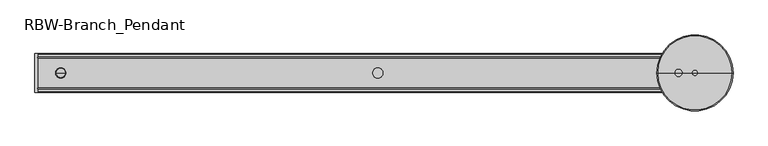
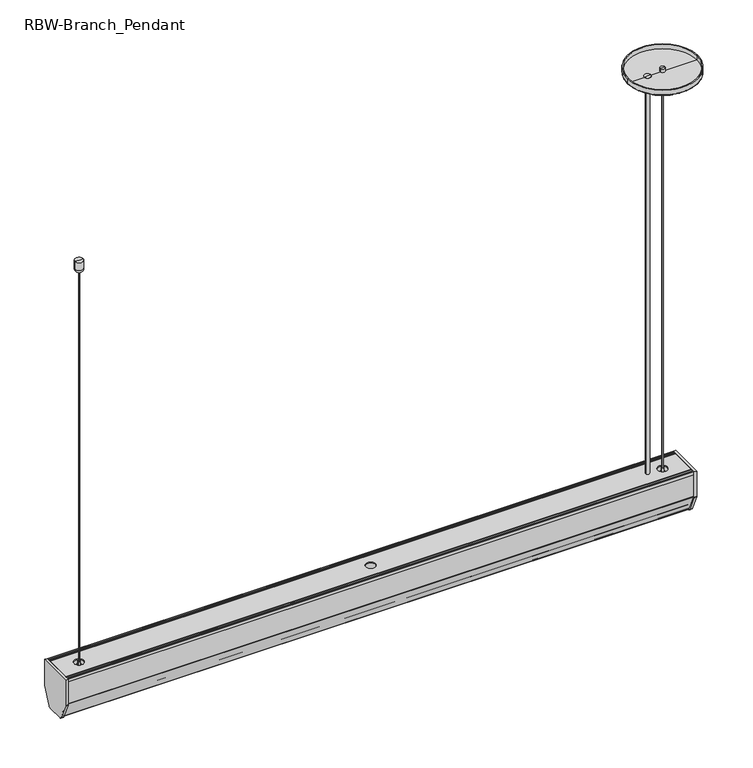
"""IFC4 building model written with IfcOpenShell, lengths in millimetres: light fixture geometry, RBW-Branch_Pendant : BREP-L."""

from ifc_helpers import new_model, si_unit, point, frame, frame_2d, origin, place, context, project, spatial, polyline, circle_curve, ellipse_curve, trimmed, segment, composite_curve, outline, extrude, source, transform, mapped, element, save
from ifc_brep_helpers import plane_surface, cylinder_surface, revolved_surface, advanced_brep


def rbw_branch_pendant_c553a360(model_context):
    return source(origin(), model_context, "Body", "SolidModel", [
        extrude(outline(composite_curve([segment(trimmed(circle_curve(frame_2d((-30.5838757, 1611.1948592)), 2.5551868), [point((-32.9164788, 1610.1518145))], [point((-33.1390625, 1611.1948592))], False, "CARTESIAN"), True, "CONTINUOUS"), segment(polyline([(-33.1390625, 1611.1948592), (-33.1390625, 1660.5718862), (33.1390625, 1660.5718862), (33.1390625, 1611.195204)]), True, "CONTINUOUS"), segment(trimmed(circle_curve(frame_2d((30.6456452, 1611.195204)), 2.4934173), [point((33.1390625, 1611.195204))], [point((32.9299697, 1610.1957085))], False, "CARTESIAN"), True, "CONTINUOUS"), segment(polyline([(32.9299697, 1610.1957085), (19.2424644, 1579.3588342)]), True, "CONTINUOUS"), segment(trimmed(circle_curve(frame_2d((15.5991067, 1581.0038724)), 3.997525), [point((19.2424644, 1579.3588342))], [point((15.5991067, 1577.0063474))], False, "CARTESIAN"), True, "CONTINUOUS"), segment(polyline([(15.5991067, 1577.0063474), (-15.6176874, 1577.0063474)]), True, "CONTINUOUS"), segment(trimmed(circle_curve(frame_2d((-15.6176874, 1580.9750974)), 3.96875), [point((-15.6176874, 1577.0063474))], [point((-19.234817, 1579.3418952))], False, "CARTESIAN"), True, "CONTINUOUS"), segment(polyline([(-19.234817, 1579.3418952), (-32.9164788, 1610.1518145)]), True, "CONTINUOUS")], self_intersect=False)), frame((573.4949219, 0.0, 0.0), z_axis=(1.0, 0.0, 0.0), x_axis=(0.0, 1.0, 0.0)), (0.0, 0.0, 1.0), 5.0),
        extrude(outline(composite_curve([segment(trimmed(circle_curve(frame_2d((-30.5838757, 1611.1948592)), 2.5551868), [point((-32.9164788, 1610.1518145))], [point((-33.1390625, 1611.1948592))], False, "CARTESIAN"), True, "CONTINUOUS"), segment(polyline([(-33.1390625, 1611.1948592), (-33.1390625, 1660.5718862), (33.1390625, 1660.5718862), (33.1390625, 1611.195204)]), True, "CONTINUOUS"), segment(trimmed(circle_curve(frame_2d((30.6456452, 1611.195204)), 2.4934173), [point((33.1390625, 1611.195204))], [point((32.9299697, 1610.1957085))], False, "CARTESIAN"), True, "CONTINUOUS"), segment(polyline([(32.9299697, 1610.1957085), (19.2424644, 1579.3588342)]), True, "CONTINUOUS"), segment(trimmed(circle_curve(frame_2d((15.5991067, 1581.0038724)), 3.997525), [point((19.2424644, 1579.3588342))], [point((15.5991067, 1577.0063474))], False, "CARTESIAN"), True, "CONTINUOUS"), segment(polyline([(15.5991067, 1577.0063474), (-15.6176874, 1577.0063474)]), True, "CONTINUOUS"), segment(trimmed(circle_curve(frame_2d((-15.6176874, 1580.9750974)), 3.96875), [point((-15.6176874, 1577.0063474))], [point((-19.234817, 1579.3418952))], False, "CARTESIAN"), True, "CONTINUOUS"), segment(polyline([(-19.234817, 1579.3418952), (-32.9164788, 1610.1518145)]), True, "CONTINUOUS")], self_intersect=False)), frame((-578.4949219, 0.0, 0.0), z_axis=(1.0, 0.0, 0.0), x_axis=(0.0, 1.0, 0.0)), (0.0, 0.0, 1.0), 5.0),
        advanced_brep(
        [(535.0352427, 0.0, 2428.0587708), (472.0437722, 0.0, 2428.0587708), (598.0267131, 0.0, 2428.0587708), (597.9932185, 0.0, 2429.8682533), (472.0772669, 0.0, 2429.8682533), (535.0352427, 0.0, 2429.8682533), (597.9932185, 0.0, 2438.4), (472.0772669, 0.0, 2438.4), (599.4542757, 0.0, 2438.4), (470.6162096, 0.0, 2438.4), (599.4542757, 0.0, 2429.4863333), (470.6162096, 0.0, 2429.4863333)],
        [
            (0, 1),
            (1, 2, circle_curve(frame((535.0352427, 0.0, 2428.0587708), z_axis=(0.0, 0.0, -1.0), x_axis=(-1.0, 0.0, 0.0)), 62.9914705)),
            (2, 0),
            (2, 1, circle_curve(frame((535.0352427, 0.0, 2428.0587708), z_axis=(0.0, 0.0, -1.0), x_axis=(-1.0, 0.0, 0.0)), 62.9914705)),
            (3, 4, circle_curve(frame((535.0352427, 0.0, 2429.8682533), z_axis=(0.0, 0.0, 1.0), x_axis=(-1.0, 0.0, 0.0)), 62.9579758)),
            (4, 5),
            (5, 3),
            (4, 3, circle_curve(frame((535.0352427, 0.0, 2429.8682533), z_axis=(0.0, 0.0, 1.0), x_axis=(-1.0, 0.0, 0.0)), 62.9579758)),
            (6, 7, circle_curve(frame((535.0352427, 0.0, 2438.4), z_axis=(0.0, 0.0, 1.0), x_axis=(-1.0, 0.0, 0.0)), 62.9579758)),
            (7, 4),
            (3, 6),
            (7, 6, circle_curve(frame((535.0352427, 0.0, 2438.4), z_axis=(0.0, 0.0, 1.0), x_axis=(-1.0, 0.0, 0.0)), 62.9579758)),
            (8, 9, circle_curve(frame((535.0352427, 0.0, 2438.4), z_axis=(0.0, 0.0, 1.0), x_axis=(-1.0, 0.0, 0.0)), 64.4190331)),
            (9, 7),
            (6, 8),
            (9, 8, circle_curve(frame((535.0352427, 0.0, 2438.4), z_axis=(0.0, 0.0, 1.0), x_axis=(-1.0, 0.0, 0.0)), 64.4190331)),
            (10, 11, circle_curve(frame((535.0352427, 0.0, 2429.4863333), z_axis=(0.0, 0.0, 1.0), x_axis=(-1.0, 0.0, 0.0)), 64.4190331)),
            (11, 9),
            (8, 10),
            (11, 10, circle_curve(frame((535.0352427, 0.0, 2429.4863333), z_axis=(0.0, 0.0, 1.0), x_axis=(-1.0, 0.0, 0.0)), 64.4190331)),
            (1, 11, circle_curve(frame((472.0437722, 0.0, 2429.4863333), z_axis=(0.0, 1.0, 0.0), x_axis=(1.0, 0.0, 0.0)), 1.4275626)),
            (10, 2, circle_curve(frame((598.0267131, 0.0, 2429.4863333), z_axis=(0.0, 1.0, 0.0), x_axis=(-1.0, 0.0, 0.0)), 1.4275626)),
        ],
        [
            plane_surface(frame((535.0352427, 0.0, 2428.0587708), z_axis=(0.0, 0.0, -1.0), x_axis=(-1.0, 0.0, 0.0))),
            plane_surface(frame((535.0352427, 0.0, 2429.8682533), z_axis=(0.0, 0.0, 1.0), x_axis=(-1.0, 0.0, 0.0))),
            revolved_surface(polyline([(472.07726690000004, 0.0, 2429.8682533), (472.07726690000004, 0.0, 2438.4)]), (535.0352427, 0.0, 2417.1682533), (0.0, 0.0, -1.0)),
            plane_surface(frame((535.0352427, 0.0, 2438.4), z_axis=(0.0, 0.0, 1.0), x_axis=(-1.0, 0.0, 0.0))),
            cylinder_surface(frame((535.0352427, 0.0, 2417.1682533), z_axis=(0.0, 0.0, -1.0), x_axis=(-1.0, 0.0, 0.0)), 64.4190331),
            revolved_surface(trimmed(ellipse_curve(frame((472.0437722, 0.0, 2429.4863333), z_axis=(0.0, -1.0, 0.0), x_axis=(1.0, 0.0, 0.0)), 1.4275626, 1.4275626), [point((470.6162096, 0.0, 2429.4863333))], [point((472.0437722, 0.0, 2428.0587708))], True, "CARTESIAN"), (535.0352427, 0.0, 2417.1682533), (0.0, 0.0, -1.0)),
        ],
        [
            (0, [[1, 2, 3]]),
            (0, [[-3, 4, -1]]),
            (1, [[5, 6, 7]]),
            (1, [[8, -7, -6]]),
            (2, [[9, 10, -5, 11]]),
            (2, [[12, -11, -8, -10]]),
            (3, [[13, 14, -9, 15]]),
            (3, [[16, -15, -12, -14]]),
            (4, [[17, 18, -13, 19]]),
            (4, [[20, -19, -16, -18]]),
            (5, [[-2, 21, -17, 22]]),
            (5, [[-4, -22, -20, -21]]),
        ],
    ),
        advanced_brep(
        [(-8.750046, 0.0, 1659.0247423), (-8.750046, 0.0, 1660.5718862), (8.750046, 0.0, 1660.5718862), (8.750046, 0.0, 1659.0247423), (526.2231695, 0.0, 1659.0247423), (526.2231695, 0.0, 1660.5718862), (543.7232615, 0.0, 1660.5718862), (543.7232615, 0.0, 1659.0247423), (-573.4949219, -24.6399969, 1660.5718862), (-573.4949219, 24.6399969, 1660.5718862), (-573.4949219, 24.6399969, 1659.0247423), (-573.4949219, 17.2096773, 1659.0247423), (-573.4949219, 17.2096773, 1653.6388792), (-573.4949219, 15.6625425, 1653.6388792), (-573.4949219, 15.6625425, 1659.0247423), (-573.4949219, -15.6625425, 1659.0247423), (-573.4949219, -15.6625425, 1653.6388792), (-573.4949219, -17.2096773, 1653.6388792), (-573.4949219, -17.2096773, 1659.0247423), (-573.4949219, -24.6399969, 1659.0247423), (573.4949219, -24.6399969, 1660.5718862), (573.4949219, -24.6399969, 1659.0247423), (573.4949219, -17.2096773, 1659.0247423), (573.4949219, -17.2096773, 1653.6388792), (573.4949219, -15.6625425, 1653.6388792), (573.4949219, -15.6625425, 1659.0247423), (573.4949219, 15.6625425, 1659.0247423), (573.4949219, 15.6625425, 1653.6388792), (573.4949219, 17.2096773, 1653.6388792), (573.4949219, 17.2096773, 1659.0247423), (573.4949219, 24.6399969, 1659.0247423), (573.4949219, 24.6399969, 1660.5718862), (-526.2231695, 0.0, 1660.5718862), (-543.7232615, 0.0, 1660.5718862), (-543.7232615, 0.0, 1659.0247423), (-526.2231695, 0.0, 1659.0247423)],
        [
            (0, 1),
            (1, 2, circle_curve(frame((0.0, 0.0, 1660.5718862), z_axis=(0.0, 0.0, 1.0), x_axis=(1.0, 0.0, 0.0)), 8.750046)),
            (2, 3),
            (3, 0, circle_curve(frame((0.0, 0.0, 1659.0247423), z_axis=(0.0, 0.0, -1.0), x_axis=(1.0, 0.0, 0.0)), 8.750046)),
            (0, 3, circle_curve(frame((0.0, 0.0, 1659.0247423), z_axis=(0.0, 0.0, -1.0), x_axis=(1.0, 0.0, 0.0)), 8.750046)),
            (2, 1, circle_curve(frame((0.0, 0.0, 1660.5718862), z_axis=(0.0, 0.0, 1.0), x_axis=(1.0, 0.0, 0.0)), 8.750046)),
            (4, 5),
            (5, 6, circle_curve(frame((534.9732155, 0.0, 1660.5718862), z_axis=(0.0, 0.0, 1.0), x_axis=(1.0, 0.0, 0.0)), 8.750046)),
            (6, 7),
            (7, 4, circle_curve(frame((534.9732155, 0.0, 1659.0247423), z_axis=(0.0, 0.0, -1.0), x_axis=(1.0, 0.0, 0.0)), 8.750046)),
            (4, 7, circle_curve(frame((534.9732155, 0.0, 1659.0247423), z_axis=(0.0, 0.0, -1.0), x_axis=(1.0, 0.0, 0.0)), 8.750046)),
            (6, 5, circle_curve(frame((534.9732155, 0.0, 1660.5718862), z_axis=(0.0, 0.0, 1.0), x_axis=(1.0, 0.0, 0.0)), 8.750046)),
            (8, 9),
            (9, 10),
            (10, 11),
            (11, 12),
            (12, 13),
            (13, 14),
            (14, 15),
            (15, 16),
            (16, 17),
            (17, 18),
            (18, 19),
            (19, 8),
            (20, 21),
            (21, 22),
            (22, 23),
            (23, 24),
            (24, 25),
            (25, 26),
            (26, 27),
            (27, 28),
            (28, 29),
            (29, 30),
            (30, 31),
            (31, 20),
            (8, 20),
            (31, 9),
            (32, 33, circle_curve(frame((-534.9732155, 0.0, 1660.5718862), z_axis=(0.0, 0.0, -1.0), x_axis=(1.0, 0.0, 0.0)), 8.750046)),
            (33, 32, circle_curve(frame((-534.9732155, 0.0, 1660.5718862), z_axis=(0.0, 0.0, -1.0), x_axis=(1.0, 0.0, 0.0)), 8.750046)),
            (30, 10),
            (29, 11),
            (28, 12),
            (27, 13),
            (26, 14),
            (25, 15),
            (34, 35, circle_curve(frame((-534.9732155, 0.0, 1659.0247423), z_axis=(0.0, 0.0, 1.0), x_axis=(1.0, 0.0, 0.0)), 8.750046)),
            (35, 34, circle_curve(frame((-534.9732155, 0.0, 1659.0247423), z_axis=(0.0, 0.0, 1.0), x_axis=(1.0, 0.0, 0.0)), 8.750046)),
            (24, 16),
            (23, 17),
            (22, 18),
            (21, 19),
            (34, 33),
            (32, 35),
        ],
        [
            revolved_surface(polyline([(8.750046, 0.0, 1660.5718862), (8.750046, 0.0, 1659.0247423)]), (0.0, 0.0, 1649.472878), (0.0, 0.0, 1.0)),
            revolved_surface(polyline([(543.7232615, 0.0, 1660.5718862), (543.7232615, 0.0, 1659.0247423)]), (534.9732155, 0.0, 10.0440765), (0.0, 0.0, 1.0)),
            plane_surface(frame((-573.4949219, 24.6399969, 1660.5718862), z_axis=(-1.0, 0.0, 0.0), x_axis=(0.0, 1.0, 0.0))),
            plane_surface(frame((573.4949219, 24.6399969, 1660.5718862), z_axis=(1.0, 0.0, 0.0), x_axis=(0.0, -1.0, 0.0))),
            plane_surface(frame((-573.4949219, -24.6399969, 1660.5718862), z_axis=(0.0, 0.0, 1.0), x_axis=(1.0, 0.0, 0.0))),
            plane_surface(frame((-573.4949219, 24.6399969, 1660.5718862), z_axis=(0.0, 1.0, 0.0), x_axis=(1.0, 0.0, 0.0))),
            plane_surface(frame((-573.4949219, 24.6399969, 1659.0247423), z_axis=(0.0, 0.0, -1.0), x_axis=(1.0, 0.0, 0.0))),
            plane_surface(frame((-573.4949219, 17.2096773, 1659.0247423), z_axis=(0.0, 1.0, 0.0), x_axis=(1.0, 0.0, 0.0))),
            plane_surface(frame((-573.4949219, 17.2096773, 1653.6388792), z_axis=(0.0, 0.0, -1.0), x_axis=(1.0, 0.0, 0.0))),
            plane_surface(frame((-573.4949219, 15.6625425, 1653.6388792), z_axis=(0.0, -1.0, 0.0), x_axis=(1.0, 0.0, 0.0))),
            plane_surface(frame((-573.4949219, 15.6625425, 1659.0247423), z_axis=(0.0, 0.0, -1.0), x_axis=(1.0, 0.0, 0.0))),
            plane_surface(frame((-573.4949219, -15.6625425, 1659.0247423), z_axis=(0.0, 1.0, 0.0), x_axis=(1.0, 0.0, 0.0))),
            plane_surface(frame((-573.4949219, -15.6625425, 1653.6388792), z_axis=(0.0, 0.0, -1.0), x_axis=(1.0, 0.0, 0.0))),
            plane_surface(frame((-573.4949219, -17.2096773, 1653.6388792), z_axis=(0.0, -1.0, 0.0), x_axis=(1.0, 0.0, 0.0))),
            plane_surface(frame((-573.4949219, -17.2096773, 1659.0247423), z_axis=(0.0, 0.0, -1.0), x_axis=(1.0, 0.0, 0.0))),
            plane_surface(frame((-573.4949219, -24.6399969, 1659.0247423), z_axis=(0.0, -1.0, 0.0), x_axis=(1.0, 0.0, 0.0))),
            revolved_surface(polyline([(-526.2231695, 0.0, 1660.5718862), (-526.2231695, 0.0, 1659.0247423)]), (-534.9732155, 0.0, 10.0440765), (0.0, 0.0, 1.0)),
        ],
        [
            (0, [[1, 2, 3, 4]]),
            (0, [[-1, 5, -3, 6]]),
            (1, [[7, 8, 9, 10]]),
            (1, [[-7, 11, -9, 12]]),
            (2, [[13, 14, 15, 16, 17, 18, 19, 20, 21, 22, 23, 24]]),
            (3, [[25, 26, 27, 28, 29, 30, 31, 32, 33, 34, 35, 36]]),
            (4, [[-13, 37, -36, 38], [-2, -6], [-8, -12], [39, 40]]),
            (5, [[-14, -38, -35, 41]]),
            (6, [[-15, -41, -34, 42]]),
            (7, [[-16, -42, -33, 43]]),
            (8, [[-17, -43, -32, 44]]),
            (9, [[-18, -44, -31, 45]]),
            (10, [[-19, -45, -30, 46], [-4, -5], [-10, -11], [47, 48]]),
            (11, [[-20, -46, -29, 49]]),
            (12, [[-21, -49, -28, 50]]),
            (13, [[-22, -50, -27, 51]]),
            (14, [[-23, -51, -26, 52]]),
            (15, [[-24, -52, -25, -37]]),
            (16, [[53, -39, 54, -47]]),
            (16, [[-53, -48, -54, -40]]),
        ],
    ),
        extrude(outline(polyline([(33.1390625, 1655.482662), (32.0194224, 1655.482662), (32.0194224, 1657.2130796), (30.0961595, 1657.2130796), (30.0961595, 1614.6719014), (-30.0961595, 1614.6719014), (-30.0961595, 1657.2130796), (-32.0194224, 1657.2130796), (-32.0194224, 1655.482662), (-33.1390625, 1655.482662), (-33.1390625, 1660.5718862), (-31.8158534, 1660.5718862), (-31.8158534, 1658.5362547), (-26.9301664, 1658.5362547), (-26.9301664, 1661.0808668), (-25.383027, 1661.0808668), (-25.383027, 1658.5362547), (-17.3478991, 1658.5362547), (-17.3478991, 1657.2130796), (-28.7725647, 1657.2130796), (-28.7725647, 1615.9725939), (28.7725647, 1615.9725939), (28.7725647, 1657.2130796), (17.3478991, 1657.2130796), (17.3478991, 1658.5362547), (25.383027, 1658.5362547), (25.383027, 1661.0808668), (26.9301664, 1661.0808668), (26.9301664, 1658.5362547), (31.8158534, 1658.5362547), (31.8158534, 1660.5718862), (33.1390625, 1660.5718862), (33.1390625, 1655.482662)])), frame((-573.4949219, 0.0, 0.0), z_axis=(1.0, 0.0, 0.0), x_axis=(0.0, 1.0, 0.0)), (0.0, 0.0, 1.0), 1146.9898437),
        extrude(outline(composite_curve([segment(polyline([(31.110477, 1656.805837), (31.110477, 1612.566329)]), True, "CONTINUOUS"), segment(trimmed(circle_curve(frame_2d((27.5248794, 1612.566329)), 3.5855977), [point((31.110477, 1612.566329))], [point((30.7964256, 1611.0988495))], False, "CARTESIAN"), True, "CONTINUOUS"), segment(polyline([(30.7964256, 1611.0988495), (16.8462004, 1579.998717)]), True, "CONTINUOUS"), segment(trimmed(circle_curve(frame_2d((15.0356307, 1580.8108633)), 1.984375), [point((16.8462004, 1579.998717))], [point((15.0356307, 1578.8264883))], False, "CARTESIAN"), True, "CONTINUOUS"), segment(polyline([(15.0356307, 1578.8264883), (-15.0356307, 1578.8264883)]), True, "CONTINUOUS"), segment(trimmed(circle_curve(frame_2d((-15.0356307, 1580.8108633)), 1.984375), [point((-15.0356307, 1578.8264883))], [point((-16.8462004, 1579.998717))], False, "CARTESIAN"), True, "CONTINUOUS"), segment(polyline([(-16.8462004, 1579.998717), (-30.7964256, 1611.0988495)]), True, "CONTINUOUS"), segment(trimmed(circle_curve(frame_2d((-27.5248794, 1612.566329)), 3.5855977), [point((-30.7964256, 1611.0988495))], [point((-31.110477, 1612.566329))], False, "CARTESIAN"), True, "CONTINUOUS"), segment(polyline([(-31.110477, 1612.566329), (-31.110477, 1656.805837), (-30.316727, 1656.805837), (-30.316727, 1612.566329)]), True, "CONTINUOUS"), segment(trimmed(circle_curve(frame_2d((-27.5248794, 1612.566329)), 2.7918477), [point((-30.316727, 1612.566329))], [point((-30.0721977, 1611.423708))], True, "CARTESIAN"), True, "CONTINUOUS"), segment(polyline([(-30.0721977, 1611.423708), (-16.1219725, 1580.3235755)]), True, "CONTINUOUS"), segment(trimmed(circle_curve(frame_2d((-15.0356307, 1580.8108633)), 1.190625), [point((-16.1219725, 1580.3235755))], [point((-15.0356307, 1579.6202383))], True, "CARTESIAN"), True, "CONTINUOUS"), segment(polyline([(-15.0356307, 1579.6202383), (15.0356307, 1579.6202383)]), True, "CONTINUOUS"), segment(trimmed(circle_curve(frame_2d((15.0356307, 1580.8108633)), 1.190625), [point((15.0356307, 1579.6202383))], [point((16.1219725, 1580.3235755))], True, "CARTESIAN"), True, "CONTINUOUS"), segment(polyline([(16.1219725, 1580.3235755), (30.0721977, 1611.423708)]), True, "CONTINUOUS"), segment(trimmed(circle_curve(frame_2d((27.5248794, 1612.566329)), 2.7918477), [point((30.0721977, 1611.423708))], [point((30.316727, 1612.566329))], True, "CARTESIAN"), True, "CONTINUOUS"), segment(polyline([(30.316727, 1612.566329), (30.316727, 1656.805837), (31.110477, 1656.805837)]), True, "CONTINUOUS")], self_intersect=False)), frame((-573.4949219, 0.0, 0.0), z_axis=(1.0, 0.0, 0.0), x_axis=(0.0, 1.0, 0.0)), (0.0, 0.0, 1.0), 1146.9898437),
        extrude(outline(composite_curve([segment(polyline([(27.2864128, 1614.6719014), (27.2864128, 1612.5293245), (14.9631189, 1585.2363171)]), True, "CONTINUOUS"), segment(trimmed(circle_curve(frame_2d((12.0694146, 1586.5428777)), 3.175), [point((14.9631189, 1585.2363171))], [point((12.0694146, 1583.3678777))], False, "CARTESIAN"), True, "CONTINUOUS"), segment(polyline([(12.0694146, 1583.3678777), (-12.0694146, 1583.3678777)]), True, "CONTINUOUS"), segment(trimmed(circle_curve(frame_2d((-12.0694146, 1586.5428777)), 3.175), [point((-12.0694146, 1583.3678777))], [point((-14.9631189, 1585.2363171))], False, "CARTESIAN"), True, "CONTINUOUS"), segment(polyline([(-14.9631189, 1585.2363171), (-27.2864128, 1612.5293245), (-27.2864128, 1614.6719014), (-25.6989128, 1614.6719014), (-25.6989128, 1612.871105), (-13.5162668, 1585.8895974)]), True, "CONTINUOUS"), segment(trimmed(circle_curve(frame_2d((-12.0694146, 1586.5428777)), 1.5875), [point((-13.5162668, 1585.8895974))], [point((-12.0694146, 1584.9553777))], True, "CARTESIAN"), True, "CONTINUOUS"), segment(polyline([(-12.0694146, 1584.9553777), (12.0694146, 1584.9553777)]), True, "CONTINUOUS"), segment(trimmed(circle_curve(frame_2d((12.0694146, 1586.5428777)), 1.5875), [point((12.0694146, 1584.9553777))], [point((13.5162668, 1585.8895974))], True, "CARTESIAN"), True, "CONTINUOUS"), segment(polyline([(13.5162668, 1585.8895974), (25.6989128, 1612.871105), (25.6989128, 1614.6719014), (27.2864128, 1614.6719014)]), True, "CONTINUOUS")], self_intersect=False)), frame((-573.4949219, 0.0, 0.0), z_axis=(1.0, 0.0, 0.0), x_axis=(0.0, 1.0, 0.0)), (0.0, 0.0, 1.0), 1146.9898437),
        advanced_brep(
        [(-533.4555894, 0.0, 2416.9916823), (-535.9911694, 0.0, 2416.9916823), (-542.3411694, 0.0, 2423.3416823), (-527.1055894, 0.0, 2423.3416823), (-534.7233794, 0.0, 2416.9916823), (-527.1055894, 0.0, 2438.8476471), (-542.3411694, 0.0, 2438.8476471), (-534.7233794, 0.0, 2438.8476471)],
        [
            (0, 1, circle_curve(frame((-534.7233794, 0.0, 2416.9916823), z_axis=(0.0, 0.0, 1.0), x_axis=(-1.0, 0.0, 0.0)), 1.26779)),
            (1, 2, circle_curve(frame((-535.9911694, 0.0, 2423.3416823), z_axis=(0.0, 1.0, 0.0), x_axis=(1.0, 0.0, 0.0)), 6.35)),
            (2, 3, circle_curve(frame((-534.7233794, 0.0, 2423.3416823), z_axis=(0.0, 0.0, -1.0), x_axis=(-1.0, 0.0, 0.0)), 7.61779)),
            (3, 0, circle_curve(frame((-533.4555894, 0.0, 2423.3416823), z_axis=(0.0, 1.0, 0.0), x_axis=(-1.0, 0.0, 0.0)), 6.35)),
            (1, 0, circle_curve(frame((-534.7233794, 0.0, 2416.9916823), z_axis=(0.0, 0.0, 1.0), x_axis=(-1.0, 0.0, 0.0)), 1.26779)),
            (3, 2, circle_curve(frame((-534.7233794, 0.0, 2423.3416823), z_axis=(0.0, 0.0, -1.0), x_axis=(-1.0, 0.0, 0.0)), 7.61779)),
            (4, 1),
            (0, 4),
            (5, 6, circle_curve(frame((-534.7233794, 0.0, 2438.8476471), z_axis=(0.0, 0.0, 1.0), x_axis=(-1.0, 0.0, 0.0)), 7.61779)),
            (6, 7),
            (7, 5),
            (6, 5, circle_curve(frame((-534.7233794, 0.0, 2438.8476471), z_axis=(0.0, 0.0, 1.0), x_axis=(-1.0, 0.0, 0.0)), 7.61779)),
            (2, 6),
            (5, 3),
        ],
        [
            revolved_surface(trimmed(ellipse_curve(frame((-535.9911694, 0.0, 2423.3416823), z_axis=(0.0, -1.0, 0.0), x_axis=(1.0, 0.0, 0.0)), 6.35, 6.35), [point((-542.3411694, 0.0, 2423.3416823))], [point((-535.9911694, 0.0, 2416.9916823))], True, "CARTESIAN"), (-534.7233794, 0.0, 2406.9424819), (0.0, 0.0, -1.0)),
            plane_surface(frame((-534.7233794, 0.0, 2416.9916823), z_axis=(0.0, 0.0, -1.0), x_axis=(-1.0, 0.0, 0.0))),
            plane_surface(frame((-534.7233794, 0.0, 2438.8476471), z_axis=(0.0, 0.0, 1.0), x_axis=(-1.0, 0.0, 0.0))),
            cylinder_surface(frame((-534.7233794, 0.0, 2406.9424819), z_axis=(0.0, 0.0, -1.0), x_axis=(-1.0, 0.0, 0.0)), 7.61779),
        ],
        [
            (0, [[1, 2, 3, 4]]),
            (0, [[5, -4, 6, -2]]),
            (1, [[7, -1, 8]]),
            (1, [[-8, -5, -7]]),
            (2, [[9, 10, 11]]),
            (2, [[12, -11, -10]]),
            (3, [[-3, 13, -9, 14]]),
            (3, [[-6, -14, -12, -13]]),
        ],
    ),
        advanced_brep(
        [(-533.9426285, 0.0, 1662.0848925), (-535.5041303, 0.0, 1662.0848925), (-535.5041303, 0.0, 2430.5703703), (-533.9426285, 0.0, 2430.5703703), (-532.7281827, 0.0, 1662.0848925), (-536.7185761, 0.0, 1662.0848925), (-532.7281827, 0.0, 1654.32886), (-536.7185761, 0.0, 1654.32886), (-530.145171, 0.0, 1654.32886), (-539.3015878, 0.0, 1654.32886), (-530.145171, 0.0, 1619.6852481), (-539.3015878, 0.0, 1619.6852481), (-534.7233794, 0.0, 1619.6852481), (-534.7233794, 0.0, 2430.5703703)],
        [
            (0, 1, circle_curve(frame((-534.7233794, 0.0, 1662.0848925), z_axis=(0.0, 0.0, 1.0), x_axis=(-1.0, 0.0, 0.0)), 0.7807509)),
            (1, 2),
            (2, 3, circle_curve(frame((-534.7233794, 0.0, 2430.5703703), z_axis=(0.0, 0.0, -1.0), x_axis=(-1.0, 0.0, 0.0)), 0.7807509)),
            (3, 0),
            (1, 0, circle_curve(frame((-534.7233794, 0.0, 1662.0848925), z_axis=(0.0, 0.0, 1.0), x_axis=(-1.0, 0.0, 0.0)), 0.7807509)),
            (3, 2, circle_curve(frame((-534.7233794, 0.0, 2430.5703703), z_axis=(0.0, 0.0, -1.0), x_axis=(-1.0, 0.0, 0.0)), 0.7807509)),
            (4, 5, circle_curve(frame((-534.7233794, 0.0, 1662.0848925), z_axis=(0.0, 0.0, 1.0), x_axis=(-1.0, 0.0, 0.0)), 1.9951967)),
            (5, 1),
            (0, 4),
            (5, 4, circle_curve(frame((-534.7233794, 0.0, 1662.0848925), z_axis=(0.0, 0.0, 1.0), x_axis=(-1.0, 0.0, 0.0)), 1.9951967)),
            (6, 7, circle_curve(frame((-534.7233794, 0.0, 1654.32886), z_axis=(0.0, 0.0, 1.0), x_axis=(-1.0, 0.0, 0.0)), 1.9951967)),
            (7, 5),
            (4, 6),
            (7, 6, circle_curve(frame((-534.7233794, 0.0, 1654.32886), z_axis=(0.0, 0.0, 1.0), x_axis=(-1.0, 0.0, 0.0)), 1.9951967)),
            (8, 9, circle_curve(frame((-534.7233794, 0.0, 1654.32886), z_axis=(0.0, 0.0, 1.0), x_axis=(-1.0, 0.0, 0.0)), 4.5782084)),
            (9, 7),
            (6, 8),
            (9, 8, circle_curve(frame((-534.7233794, 0.0, 1654.32886), z_axis=(0.0, 0.0, 1.0), x_axis=(-1.0, 0.0, 0.0)), 4.5782084)),
            (10, 11, circle_curve(frame((-534.7233794, 0.0, 1619.6852481), z_axis=(0.0, 0.0, 1.0), x_axis=(-1.0, 0.0, 0.0)), 4.5782084)),
            (11, 9),
            (8, 10),
            (11, 10, circle_curve(frame((-534.7233794, 0.0, 1619.6852481), z_axis=(0.0, 0.0, 1.0), x_axis=(-1.0, 0.0, 0.0)), 4.5782084)),
            (12, 11),
            (10, 12),
            (2, 13),
            (13, 3),
        ],
        [
            cylinder_surface(frame((-534.7233794, 0.0, 1591.2680706), z_axis=(0.0, 0.0, -1.0), x_axis=(-1.0, 0.0, 0.0)), 0.7807509),
            plane_surface(frame((-534.7233794, 0.0, 1662.0848925), z_axis=(0.0, 0.0, 1.0), x_axis=(-1.0, 0.0, 0.0))),
            cylinder_surface(frame((-534.7233794, 0.0, 1591.2680706), z_axis=(0.0, 0.0, -1.0), x_axis=(-1.0, 0.0, 0.0)), 1.9951967),
            plane_surface(frame((-534.7233794, 0.0, 1654.32886), z_axis=(0.0, 0.0, 1.0), x_axis=(-1.0, 0.0, 0.0))),
            cylinder_surface(frame((-534.7233794, 0.0, 1591.2680706), z_axis=(0.0, 0.0, -1.0), x_axis=(-1.0, 0.0, 0.0)), 4.5782084),
            plane_surface(frame((-534.7233794, 0.0, 1619.6852481), z_axis=(0.0, 0.0, -1.0), x_axis=(-1.0, 0.0, 0.0))),
            plane_surface(frame((-534.7233794, 0.0, 2430.5703703), z_axis=(0.0, 0.0, 1.0), x_axis=(-1.0, 0.0, 0.0))),
        ],
        [
            (0, [[1, 2, 3, 4]]),
            (0, [[5, -4, 6, -2]]),
            (1, [[7, 8, -1, 9]]),
            (1, [[10, -9, -5, -8]]),
            (2, [[11, 12, -7, 13]]),
            (2, [[14, -13, -10, -12]]),
            (3, [[15, 16, -11, 17]]),
            (3, [[18, -17, -14, -16]]),
            (4, [[19, 20, -15, 21]]),
            (4, [[22, -21, -18, -20]]),
            (5, [[23, -19, 24]]),
            (5, [[-24, -22, -23]]),
            (6, [[-3, 25, 26]]),
            (6, [[-6, -26, -25]]),
        ],
    ),
        extrude(outline(composite_curve([segment(trimmed(circle_curve(frame_2d((27.6240981, 1612.566329)), 4.3793477), [point((32.0034458, 1612.566329))], [point((31.6198722, 1610.773991))], False, "CARTESIAN"), True, "CONTINUOUS"), segment(polyline([(31.6198722, 1610.773991), (17.669647, 1579.6738586)]), True, "CONTINUOUS"), segment(trimmed(circle_curve(frame_2d((15.1348494, 1580.8108633)), 2.778125), [point((17.669647, 1579.6738586))], [point((15.1348494, 1578.0327383))], False, "CARTESIAN"), True, "CONTINUOUS"), segment(polyline([(15.1348494, 1578.0327383), (-15.1348494, 1578.0327383)]), True, "CONTINUOUS"), segment(trimmed(circle_curve(frame_2d((-15.1348494, 1580.8108633)), 2.778125), [point((-15.1348494, 1578.0327383))], [point((-17.669647, 1579.6738586))], False, "CARTESIAN"), True, "CONTINUOUS"), segment(polyline([(-17.669647, 1579.6738586), (-31.6198722, 1610.773991)]), True, "CONTINUOUS"), segment(trimmed(circle_curve(frame_2d((-27.6240981, 1612.566329)), 4.3793477), [point((-31.6198722, 1610.773991))], [point((-32.0034458, 1612.566329))], False, "CARTESIAN"), True, "CONTINUOUS"), segment(polyline([(-32.0034458, 1612.566329), (-32.0034458, 1656.805837), (-31.2096958, 1656.805837), (-31.2096958, 1612.566329)]), True, "CONTINUOUS"), segment(trimmed(circle_curve(frame_2d((-27.6240981, 1612.566329)), 3.5855977), [point((-31.2096958, 1612.566329))], [point((-30.8956443, 1611.0988495))], True, "CARTESIAN"), True, "CONTINUOUS"), segment(polyline([(-30.8956443, 1611.0988495), (-16.9454191, 1579.998717)]), True, "CONTINUOUS"), segment(trimmed(circle_curve(frame_2d((-15.1348494, 1580.8108633)), 1.984375), [point((-16.9454191, 1579.998717))], [point((-15.1348494, 1578.8264883))], True, "CARTESIAN"), True, "CONTINUOUS"), segment(polyline([(-15.1348494, 1578.8264883), (15.1348494, 1578.8264883)]), True, "CONTINUOUS"), segment(trimmed(circle_curve(frame_2d((15.1348494, 1580.8108633)), 1.984375), [point((15.1348494, 1578.8264883))], [point((16.9454191, 1579.998717))], True, "CARTESIAN"), True, "CONTINUOUS"), segment(polyline([(16.9454191, 1579.998717), (30.8956443, 1611.0988495)]), True, "CONTINUOUS"), segment(trimmed(circle_curve(frame_2d((27.6240981, 1612.566329)), 3.5855977), [point((30.8956443, 1611.0988495))], [point((31.2096958, 1612.566329))], True, "CARTESIAN"), True, "CONTINUOUS"), segment(polyline([(31.2096958, 1612.566329), (31.2096958, 1656.805837), (32.0034458, 1656.805837), (32.0034458, 1612.566329)]), True, "CONTINUOUS")], self_intersect=False)), frame((-573.4949219, 0.0, 0.0), z_axis=(1.0, 0.0, 0.0), x_axis=(0.0, 1.0, 0.0)), (0.0, 0.0, 1.0), 1146.9898437),
        advanced_brep(
        [(541.429283, 0.0, 2428.0587708), (528.5171479, 0.0, 2428.0587708), (530.6981059, 0.0, 2428.0587708), (539.248325, 0.0, 2428.0587708), (541.429283, 0.0, 2415.1316528), (528.5171479, 0.0, 2415.1316528), (539.3723825, 0.0, 2415.1316528), (530.5740484, 0.0, 2415.1316528), (539.3723825, 0.0, 2411.2536919), (530.5740484, 0.0, 2411.2536919), (535.8724362, 0.0, 2411.2536919), (534.0739947, 0.0, 2411.2536919), (535.8724362, 0.0, 1662.0848925), (534.0739947, 0.0, 1662.0848925), (537.0582016, 0.0, 1662.0848925), (532.8882294, 0.0, 1662.0848925), (537.0582016, 0.0, 1654.32886), (532.8882294, 0.0, 1654.32886), (539.4233972, 0.0, 1654.32886), (530.5230337, 0.0, 1654.32886), (539.4233972, 0.0, 1619.6852481), (530.5230337, 0.0, 1619.6852481), (534.9732155, 0.0, 1619.6852481), (539.248325, 0.0, 2437.1070557), (530.6981059, 0.0, 2437.1070557), (534.9732155, 0.0, 2437.1070557)],
        [
            (0, 1, circle_curve(frame((534.9732155, 0.0, 2428.0587708), z_axis=(0.0, 0.0, 1.0), x_axis=(-1.0, 0.0, 0.0)), 6.4560675)),
            (1, 2),
            (2, 3, circle_curve(frame((534.9732155, 0.0, 2428.0587708), z_axis=(0.0, 0.0, -1.0), x_axis=(-1.0, 0.0, 0.0)), 4.2751096)),
            (3, 0),
            (1, 0, circle_curve(frame((534.9732155, 0.0, 2428.0587708), z_axis=(0.0, 0.0, 1.0), x_axis=(-1.0, 0.0, 0.0)), 6.4560675)),
            (3, 2, circle_curve(frame((534.9732155, 0.0, 2428.0587708), z_axis=(0.0, 0.0, -1.0), x_axis=(-1.0, 0.0, 0.0)), 4.2751096)),
            (4, 5, circle_curve(frame((534.9732155, 0.0, 2415.1316528), z_axis=(0.0, 0.0, 1.0), x_axis=(-1.0, 0.0, 0.0)), 6.4560675)),
            (5, 1),
            (0, 4),
            (5, 4, circle_curve(frame((534.9732155, 0.0, 2415.1316528), z_axis=(0.0, 0.0, 1.0), x_axis=(-1.0, 0.0, 0.0)), 6.4560675)),
            (6, 7, circle_curve(frame((534.9732155, 0.0, 2415.1316528), z_axis=(0.0, 0.0, 1.0), x_axis=(-1.0, 0.0, 0.0)), 4.3991671)),
            (7, 5),
            (4, 6),
            (7, 6, circle_curve(frame((534.9732155, 0.0, 2415.1316528), z_axis=(0.0, 0.0, 1.0), x_axis=(-1.0, 0.0, 0.0)), 4.3991671)),
            (8, 9, circle_curve(frame((534.9732155, 0.0, 2411.2536919), z_axis=(0.0, 0.0, 1.0), x_axis=(-1.0, 0.0, 0.0)), 4.3991671)),
            (9, 7),
            (6, 8),
            (9, 8, circle_curve(frame((534.9732155, 0.0, 2411.2536919), z_axis=(0.0, 0.0, 1.0), x_axis=(-1.0, 0.0, 0.0)), 4.3991671)),
            (10, 11, circle_curve(frame((534.9732155, 0.0, 2411.2536919), z_axis=(0.0, 0.0, 1.0), x_axis=(-1.0, 0.0, 0.0)), 0.8992208)),
            (11, 9),
            (8, 10),
            (11, 10, circle_curve(frame((534.9732155, 0.0, 2411.2536919), z_axis=(0.0, 0.0, 1.0), x_axis=(-1.0, 0.0, 0.0)), 0.8992208)),
            (12, 13, circle_curve(frame((534.9732155, 0.0, 1662.0848925), z_axis=(0.0, 0.0, 1.0), x_axis=(-1.0, 0.0, 0.0)), 0.8992208)),
            (13, 11),
            (10, 12),
            (13, 12, circle_curve(frame((534.9732155, 0.0, 1662.0848925), z_axis=(0.0, 0.0, 1.0), x_axis=(-1.0, 0.0, 0.0)), 0.8992208)),
            (14, 15, circle_curve(frame((534.9732155, 0.0, 1662.0848925), z_axis=(0.0, 0.0, 1.0), x_axis=(-1.0, 0.0, 0.0)), 2.0849861)),
            (15, 13),
            (12, 14),
            (15, 14, circle_curve(frame((534.9732155, 0.0, 1662.0848925), z_axis=(0.0, 0.0, 1.0), x_axis=(-1.0, 0.0, 0.0)), 2.0849861)),
            (16, 17, circle_curve(frame((534.9732155, 0.0, 1654.32886), z_axis=(0.0, 0.0, 1.0), x_axis=(-1.0, 0.0, 0.0)), 2.0849861)),
            (17, 15),
            (14, 16),
            (17, 16, circle_curve(frame((534.9732155, 0.0, 1654.32886), z_axis=(0.0, 0.0, 1.0), x_axis=(-1.0, 0.0, 0.0)), 2.0849861)),
            (18, 19, circle_curve(frame((534.9732155, 0.0, 1654.32886), z_axis=(0.0, 0.0, 1.0), x_axis=(-1.0, 0.0, 0.0)), 4.4501817)),
            (19, 17),
            (16, 18),
            (19, 18, circle_curve(frame((534.9732155, 0.0, 1654.32886), z_axis=(0.0, 0.0, 1.0), x_axis=(-1.0, 0.0, 0.0)), 4.4501817)),
            (20, 21, circle_curve(frame((534.9732155, 0.0, 1619.6852481), z_axis=(0.0, 0.0, 1.0), x_axis=(-1.0, 0.0, 0.0)), 4.4501817)),
            (21, 19),
            (18, 20),
            (21, 20, circle_curve(frame((534.9732155, 0.0, 1619.6852481), z_axis=(0.0, 0.0, 1.0), x_axis=(-1.0, 0.0, 0.0)), 4.4501817)),
            (22, 21),
            (20, 22),
            (23, 24, circle_curve(frame((534.9732155, 0.0, 2437.1070557), z_axis=(0.0, 0.0, 1.0), x_axis=(-1.0, 0.0, 0.0)), 4.2751096)),
            (24, 25),
            (25, 23),
            (24, 23, circle_curve(frame((534.9732155, 0.0, 2437.1070557), z_axis=(0.0, 0.0, 1.0), x_axis=(-1.0, 0.0, 0.0)), 4.2751096)),
            (2, 24),
            (23, 3),
        ],
        [
            plane_surface(frame((534.9732155, 0.0, 2428.0587708), z_axis=(0.0, 0.0, 1.0), x_axis=(-1.0, 0.0, 0.0))),
            cylinder_surface(frame((534.9732155, 0.0, 1684.8260124), z_axis=(0.0, 0.0, -1.0), x_axis=(-1.0, 0.0, 0.0)), 6.4560675),
            plane_surface(frame((534.9732155, 0.0, 2415.1316528), z_axis=(0.0, 0.0, -1.0), x_axis=(-1.0, 0.0, 0.0))),
            cylinder_surface(frame((534.9732155, 0.0, 1684.8260124), z_axis=(0.0, 0.0, -1.0), x_axis=(-1.0, 0.0, 0.0)), 4.3991671),
            plane_surface(frame((534.9732155, 0.0, 2411.2536919), z_axis=(0.0, 0.0, -1.0), x_axis=(-1.0, 0.0, 0.0))),
            cylinder_surface(frame((534.9732155, 0.0, 1684.8260124), z_axis=(0.0, 0.0, -1.0), x_axis=(-1.0, 0.0, 0.0)), 0.8992208),
            plane_surface(frame((534.9732155, 0.0, 1662.0848925), z_axis=(0.0, 0.0, 1.0), x_axis=(-1.0, 0.0, 0.0))),
            cylinder_surface(frame((534.9732155, 0.0, 1684.8260124), z_axis=(0.0, 0.0, -1.0), x_axis=(-1.0, 0.0, 0.0)), 2.0849861),
            plane_surface(frame((534.9732155, 0.0, 1654.32886), z_axis=(0.0, 0.0, 1.0), x_axis=(-1.0, 0.0, 0.0))),
            cylinder_surface(frame((534.9732155, 0.0, 1684.8260124), z_axis=(0.0, 0.0, -1.0), x_axis=(-1.0, 0.0, 0.0)), 4.4501817),
            plane_surface(frame((534.9732155, 0.0, 1619.6852481), z_axis=(0.0, 0.0, -1.0), x_axis=(-1.0, 0.0, 0.0))),
            plane_surface(frame((534.9732155, 0.0, 2437.1070557), z_axis=(0.0, 0.0, 1.0), x_axis=(-1.0, 0.0, 0.0))),
            cylinder_surface(frame((534.9732155, 0.0, 1684.8260124), z_axis=(0.0, 0.0, -1.0), x_axis=(-1.0, 0.0, 0.0)), 4.2751096),
        ],
        [
            (0, [[1, 2, 3, 4]]),
            (0, [[5, -4, 6, -2]]),
            (1, [[7, 8, -1, 9]]),
            (1, [[10, -9, -5, -8]]),
            (2, [[11, 12, -7, 13]]),
            (2, [[14, -13, -10, -12]]),
            (3, [[15, 16, -11, 17]]),
            (3, [[18, -17, -14, -16]]),
            (4, [[19, 20, -15, 21]]),
            (4, [[22, -21, -18, -20]]),
            (5, [[23, 24, -19, 25]]),
            (5, [[26, -25, -22, -24]]),
            (6, [[27, 28, -23, 29]]),
            (6, [[30, -29, -26, -28]]),
            (7, [[31, 32, -27, 33]]),
            (7, [[34, -33, -30, -32]]),
            (8, [[35, 36, -31, 37]]),
            (8, [[38, -37, -34, -36]]),
            (9, [[39, 40, -35, 41]]),
            (9, [[42, -41, -38, -40]]),
            (10, [[43, -39, 44]]),
            (10, [[-44, -42, -43]]),
            (11, [[45, 46, 47]]),
            (11, [[48, -47, -46]]),
            (12, [[-3, 49, -45, 50]]),
            (12, [[-6, -50, -48, -49]]),
        ],
    ),
        advanced_brep(
        [(514.9582727, 0.0, 2428.0587708), (499.842721, 0.0, 2428.0587708), (501.3413713, 0.0, 2428.0587708), (513.4596224, 0.0, 2428.0587708), (510.7614359, 0.0, 1651.009073), (504.0395578, 0.0, 1651.009073), (504.0395578, 0.0, 2425.7315872), (510.7614359, 0.0, 2425.7315872), (507.4004969, 0.0, 1651.009073), (513.4596224, 0.0, 2430.6728554), (501.3413713, 0.0, 2430.6728554), (507.4004969, 0.0, 2430.6728554), (514.9582727, 0.0, 2425.7315872), (499.842721, 0.0, 2425.7315872)],
        [
            (0, 1, circle_curve(frame((507.4004969, 0.0, 2428.0587708), z_axis=(0.0, 0.0, 1.0), x_axis=(-1.0, 0.0, 0.0)), 7.5577759)),
            (1, 2),
            (2, 3, circle_curve(frame((507.4004969, 0.0, 2428.0587708), z_axis=(0.0, 0.0, -1.0), x_axis=(-1.0, 0.0, 0.0)), 6.0591255)),
            (3, 0),
            (1, 0, circle_curve(frame((507.4004969, 0.0, 2428.0587708), z_axis=(0.0, 0.0, 1.0), x_axis=(-1.0, 0.0, 0.0)), 7.5577759)),
            (3, 2, circle_curve(frame((507.4004969, 0.0, 2428.0587708), z_axis=(0.0, 0.0, -1.0), x_axis=(-1.0, 0.0, 0.0)), 6.0591255)),
            (4, 5, circle_curve(frame((507.4004969, 0.0, 1651.009073), z_axis=(0.0, 0.0, 1.0), x_axis=(-1.0, 0.0, 0.0)), 3.360939)),
            (5, 6),
            (6, 7, circle_curve(frame((507.4004969, 0.0, 2425.7315872), z_axis=(0.0, 0.0, -1.0), x_axis=(-1.0, 0.0, 0.0)), 3.360939)),
            (7, 4),
            (5, 4, circle_curve(frame((507.4004969, 0.0, 1651.009073), z_axis=(0.0, 0.0, 1.0), x_axis=(-1.0, 0.0, 0.0)), 3.360939)),
            (7, 6, circle_curve(frame((507.4004969, 0.0, 2425.7315872), z_axis=(0.0, 0.0, -1.0), x_axis=(-1.0, 0.0, 0.0)), 3.360939)),
            (8, 5),
            (4, 8),
            (9, 10, circle_curve(frame((507.4004969, 0.0, 2430.6728554), z_axis=(0.0, 0.0, 1.0), x_axis=(-1.0, 0.0, 0.0)), 6.0591255)),
            (10, 11),
            (11, 9),
            (10, 9, circle_curve(frame((507.4004969, 0.0, 2430.6728554), z_axis=(0.0, 0.0, 1.0), x_axis=(-1.0, 0.0, 0.0)), 6.0591255)),
            (2, 10),
            (9, 3),
            (12, 13, circle_curve(frame((507.4004969, 0.0, 2425.7315872), z_axis=(0.0, 0.0, 1.0), x_axis=(-1.0, 0.0, 0.0)), 7.5577759)),
            (13, 1),
            (0, 12),
            (13, 12, circle_curve(frame((507.4004969, 0.0, 2425.7315872), z_axis=(0.0, 0.0, 1.0), x_axis=(-1.0, 0.0, 0.0)), 7.5577759)),
            (6, 13),
            (12, 7),
        ],
        [
            plane_surface(frame((507.4004969, 0.0, 2428.0587708), z_axis=(0.0, 0.0, 1.0), x_axis=(-1.0, 0.0, 0.0))),
            cylinder_surface(frame((507.4004969, 0.0, 2421.5393198), z_axis=(0.0, 0.0, -1.0), x_axis=(-1.0, 0.0, 0.0)), 3.360939),
            plane_surface(frame((507.4004969, 0.0, 1651.009073), z_axis=(0.0, 0.0, -1.0), x_axis=(-1.0, 0.0, 0.0))),
            plane_surface(frame((507.4004969, 0.0, 2430.6728554), z_axis=(0.0, 0.0, 1.0), x_axis=(-1.0, 0.0, 0.0))),
            cylinder_surface(frame((507.4004969, 0.0, 2421.5393198), z_axis=(0.0, 0.0, -1.0), x_axis=(-1.0, 0.0, 0.0)), 6.0591255),
            cylinder_surface(frame((507.4004969, 0.0, 2421.5393198), z_axis=(0.0, 0.0, -1.0), x_axis=(-1.0, 0.0, 0.0)), 7.5577759),
            plane_surface(frame((507.4004969, 0.0, 2425.7315872), z_axis=(0.0, 0.0, -1.0), x_axis=(-1.0, 0.0, 0.0))),
        ],
        [
            (0, [[1, 2, 3, 4]]),
            (0, [[5, -4, 6, -2]]),
            (1, [[7, 8, 9, 10]]),
            (1, [[11, -10, 12, -8]]),
            (2, [[13, -7, 14]]),
            (2, [[-14, -11, -13]]),
            (3, [[15, 16, 17]]),
            (3, [[18, -17, -16]]),
            (4, [[-3, 19, -15, 20]]),
            (4, [[-6, -20, -18, -19]]),
            (5, [[21, 22, -1, 23]]),
            (5, [[24, -23, -5, -22]]),
            (6, [[-9, 25, -21, 26]]),
            (6, [[-12, -26, -24, -25]]),
        ],
    ),
    ])


if __name__ == "__main__":
    model = new_model("IFC4")
    model_context = context("Model", 3, world=origin())
    ifc_project = project(units=[si_unit("LENGTHUNIT", "METRE", prefix="MILLI")], contexts=[model_context])
    site = spatial("IfcSite", under=ifc_project)
    building = spatial("IfcBuilding", under=site)
    placement = place(None, origin())
    rbw_branch_pendant_shape = rbw_branch_pendant_c553a360(model_context)
    element("IfcLightFixture", 1, ObjectType="RBW-Branch_Pendant : BREP-L", at=placement, inside=building, context=model_context, shape_type="MappedRepresentation", body=[
        mapped(rbw_branch_pendant_shape, transform((0.0, 0.0, 0.0), x_axis=(1.0, 0.0, 0.0), y_axis=(0.0, 1.0, 0.0), z_axis=(0.0, 0.0, 1.0))),
    ])
    save(model, "model.ifc")
